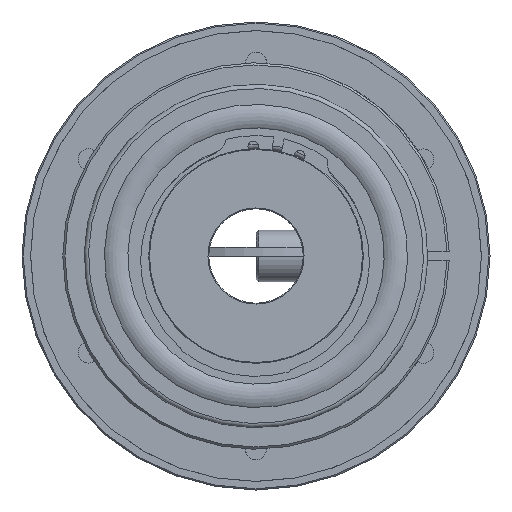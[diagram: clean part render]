
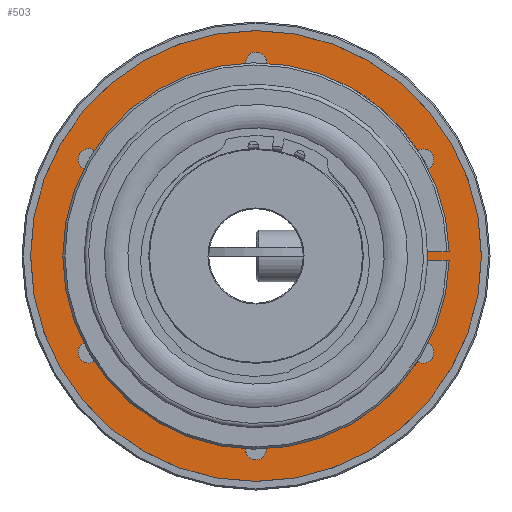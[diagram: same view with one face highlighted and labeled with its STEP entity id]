
A CAD part, left-side view. The second image highlights one B-rep face of the part: STEP entity #503.
In plain terms, the highlighted planar face has unit normal (-1, 0, 0).
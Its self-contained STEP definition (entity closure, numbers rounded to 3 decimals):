
#503 = ADVANCED_FACE( '', ( #844, #845, #846, #847, #848, #849, #850, #851 ), #852, .F. );
#844 = FACE_OUTER_BOUND( '', #1254, .T. );
#845 = FACE_BOUND( '', #1255, .T. );
#846 = FACE_BOUND( '', #1256, .T. );
#847 = FACE_BOUND( '', #1257, .T. );
#848 = FACE_BOUND( '', #1258, .T. );
#849 = FACE_BOUND( '', #1259, .T. );
#850 = FACE_BOUND( '', #1260, .T. );
#851 = FACE_BOUND( '', #1261, .T. );
#852 = PLANE( '', #1262 );
#1254 = EDGE_LOOP( '', ( #1925 ) );
#1255 = EDGE_LOOP( '', ( #1926 ) );
#1256 = EDGE_LOOP( '', ( #1927 ) );
#1257 = EDGE_LOOP( '', ( #1928 ) );
#1258 = EDGE_LOOP( '', ( #1929 ) );
#1259 = EDGE_LOOP( '', ( #1930 ) );
#1260 = EDGE_LOOP( '', ( #1931 ) );
#1261 = EDGE_LOOP( '', ( #1932 ) );
#1262 = AXIS2_PLACEMENT_3D( '', #1933, #1934, #1935 );
#1925 = ORIENTED_EDGE( '', *, *, #2431, .T. );
#1926 = ORIENTED_EDGE( '', *, *, #2432, .T. );
#1927 = ORIENTED_EDGE( '', *, *, #2433, .T. );
#1928 = ORIENTED_EDGE( '', *, *, #2434, .T. );
#1929 = ORIENTED_EDGE( '', *, *, #2435, .T. );
#1930 = ORIENTED_EDGE( '', *, *, #2436, .T. );
#1931 = ORIENTED_EDGE( '', *, *, #2437, .T. );
#1932 = ORIENTED_EDGE( '', *, *, #2429, .F. );
#1933 = CARTESIAN_POINT( '', ( -17.15, 52.5, 0. ) );
#1934 = DIRECTION( '', ( 1., 0., 0. ) );
#1935 = DIRECTION( '', ( 0., 1., 0. ) );
#2429 = EDGE_CURVE( '', #2760, #2760, #2761, .T. );
#2431 = EDGE_CURVE( '', #2764, #2764, #2765, .T. );
#2432 = EDGE_CURVE( '', #2766, #2766, #2767, .T. );
#2433 = EDGE_CURVE( '', #2768, #2768, #2769, .T. );
#2434 = EDGE_CURVE( '', #2770, #2770, #2771, .T. );
#2435 = EDGE_CURVE( '', #2772, #2772, #2773, .T. );
#2436 = EDGE_CURVE( '', #2774, #2774, #2775, .T. );
#2437 = EDGE_CURVE( '', #2776, #2776, #2777, .T. );
#2760 = VERTEX_POINT( '', #3706 );
#2761 = CIRCLE( '', #3707, 40. );
#2764 = VERTEX_POINT( '', #3710 );
#2765 = CIRCLE( '', #3711, 52.5 );
#2766 = VERTEX_POINT( '', #3712 );
#2767 = CIRCLE( '', #3713, 2.459 );
#2768 = VERTEX_POINT( '', #3714 );
#2769 = CIRCLE( '', #3715, 2.459 );
#2770 = VERTEX_POINT( '', #3716 );
#2771 = CIRCLE( '', #3717, 2.459 );
#2772 = VERTEX_POINT( '', #3718 );
#2773 = CIRCLE( '', #3719, 2.459 );
#2774 = VERTEX_POINT( '', #3720 );
#2775 = CIRCLE( '', #3721, 2.459 );
#2776 = VERTEX_POINT( '', #3722 );
#2777 = CIRCLE( '', #3723, 2.459 );
#3706 = CARTESIAN_POINT( '', ( -17.15, 0., 40. ) );
#3707 = AXIS2_PLACEMENT_3D( '', #4102, #4103, #4104 );
#3710 = CARTESIAN_POINT( '', ( -17.15, 0., 52.5 ) );
#3711 = AXIS2_PLACEMENT_3D( '', #4108, #4109, #4110 );
#3712 = CARTESIAN_POINT( '', ( -17.15, 41.1, 23.729 ) );
#3713 = AXIS2_PLACEMENT_3D( '', #4111, #4112, #4113 );
#3714 = CARTESIAN_POINT( '', ( -17.15, 41.1, -23.729 ) );
#3715 = AXIS2_PLACEMENT_3D( '', #4114, #4115, #4116 );
#3716 = CARTESIAN_POINT( '', ( -17.15, 0., -47.459 ) );
#3717 = AXIS2_PLACEMENT_3D( '', #4117, #4118, #4119 );
#3718 = CARTESIAN_POINT( '', ( -17.15, -41.1, -23.729 ) );
#3719 = AXIS2_PLACEMENT_3D( '', #4120, #4121, #4122 );
#3720 = CARTESIAN_POINT( '', ( -17.15, -41.1, 23.729 ) );
#3721 = AXIS2_PLACEMENT_3D( '', #4123, #4124, #4125 );
#3722 = CARTESIAN_POINT( '', ( -17.15, 0., 47.459 ) );
#3723 = AXIS2_PLACEMENT_3D( '', #4126, #4127, #4128 );
#4102 = CARTESIAN_POINT( '', ( -17.15, 0., 0. ) );
#4103 = DIRECTION( '', ( -1., 0., 0. ) );
#4104 = DIRECTION( '', ( 0., 0., 1. ) );
#4108 = CARTESIAN_POINT( '', ( -17.15, 0., 0. ) );
#4109 = DIRECTION( '', ( -1., 0., 0. ) );
#4110 = DIRECTION( '', ( 0., 0., 1. ) );
#4111 = CARTESIAN_POINT( '', ( -17.15, 38.971, 22.5 ) );
#4112 = DIRECTION( '', ( 1., 0., 0. ) );
#4113 = DIRECTION( '', ( 0., 0.866, 0.5 ) );
#4114 = CARTESIAN_POINT( '', ( -17.15, 38.971, -22.5 ) );
#4115 = DIRECTION( '', ( 1., 0., 0. ) );
#4116 = DIRECTION( '', ( 0., 0.866, -0.5 ) );
#4117 = CARTESIAN_POINT( '', ( -17.15, 0., -45. ) );
#4118 = DIRECTION( '', ( 1., 0., 0. ) );
#4119 = DIRECTION( '', ( 0., 0., -1. ) );
#4120 = CARTESIAN_POINT( '', ( -17.15, -38.971, -22.5 ) );
#4121 = DIRECTION( '', ( 1., 0., 0. ) );
#4122 = DIRECTION( '', ( 0., -0.866, -0.5 ) );
#4123 = CARTESIAN_POINT( '', ( -17.15, -38.971, 22.5 ) );
#4124 = DIRECTION( '', ( 1., 0., 0. ) );
#4125 = DIRECTION( '', ( 0., -0.866, 0.5 ) );
#4126 = CARTESIAN_POINT( '', ( -17.15, 0., 45. ) );
#4127 = DIRECTION( '', ( 1., 0., 0. ) );
#4128 = DIRECTION( '', ( 0., 0., 1. ) );
